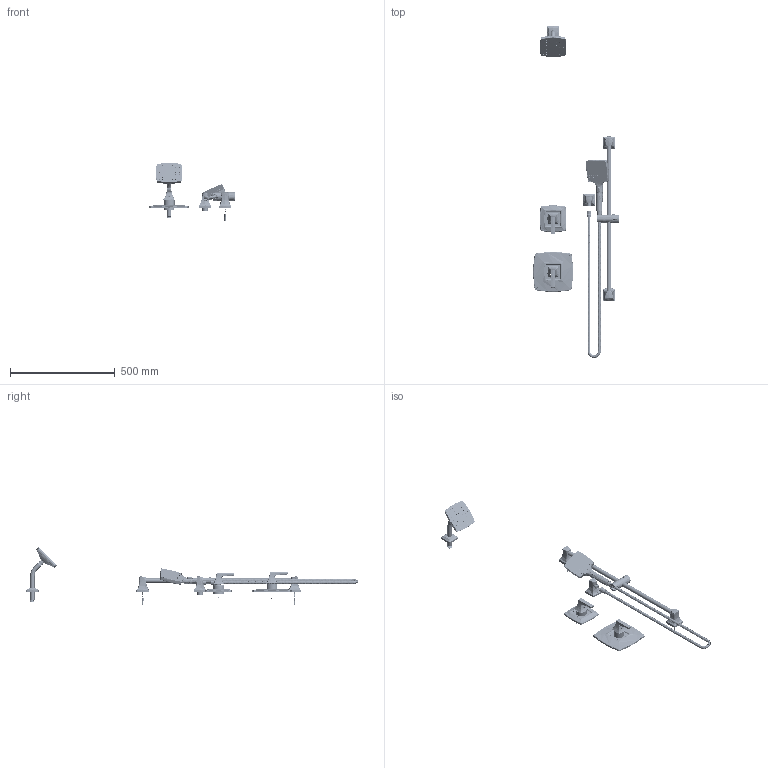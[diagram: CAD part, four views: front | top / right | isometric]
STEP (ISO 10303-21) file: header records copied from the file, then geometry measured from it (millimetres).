
FILE_DESCRIPTION (( 'STEP AP214' ), '1' );
FILE_NAME ('5695TRM.STEP', '2025-01-02T07:09:01', ( '' ), ( '' ), 'SwSTEP 2.0', 'SolidWorks 2023', '' );
FILE_SCHEMA (( 'AUTOMOTIVE_DESIGN' ));
Products named in the file (1): 5695TRM
Bounding box: 407.96 x 1584.14 x 275.54 mm (x, y, z)
Surface area: 590997.7 mm2 (no closed solid volume)
Topology: 0 solids, 321 shells, 1787 faces, 7323 edges, 5706 vertices
Faces by surface type: bspline 692, plane 421, cylinder 385, cone 224, torus 44, sphere 21
Entity records: 365179 total; most frequent: CARTESIAN_POINT 314820, ORIENTED_EDGE 9969, DIRECTION 7563, EDGE_CURVE 7312, VERTEX_POINT 5704, B_SPLINE_CURVE_WITH_KNOTS 3426, AXIS2_PLACEMENT_3D 2858, EDGE_LOOP 2298
